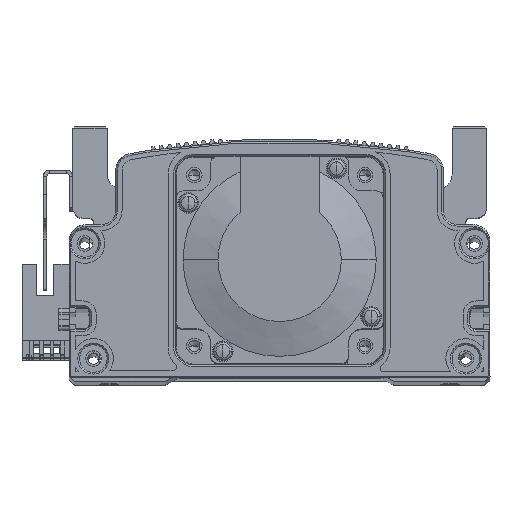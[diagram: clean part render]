
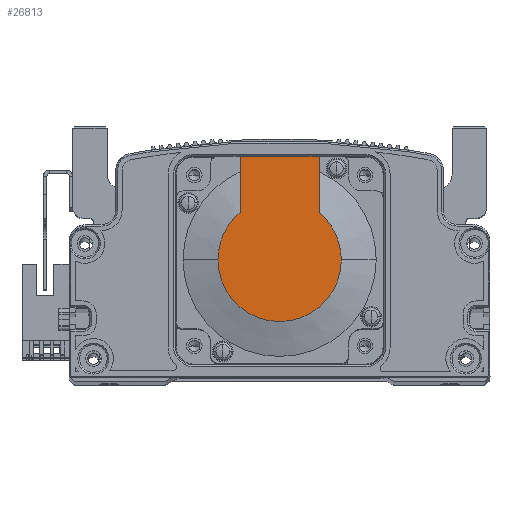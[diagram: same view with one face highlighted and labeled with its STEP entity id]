
A CAD part, top view. The second image highlights one B-rep face of the part: STEP entity #26813.
In plain terms, the highlighted planar face has unit normal (0, 0, 1) as drawn and (-1, 0, 0) by its records, which use the part's own axes.
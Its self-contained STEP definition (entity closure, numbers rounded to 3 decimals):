
#425 = LINE ( 'NONE', #14855, #32040 ) ;
#663 = EDGE_CURVE ( 'NONE', #41209, #62188, #30129, .T. ) ;
#3111 = ORIENTED_EDGE ( 'NONE', *, *, #23207, .T. ) ;
#3572 = CARTESIAN_POINT ( 'NONE',  ( -118.5, 0., 11.45 ) ) ;
#3984 = AXIS2_PLACEMENT_3D ( 'NONE', #42784, #48113, #63203 ) ;
#5056 = PLANE ( 'NONE',  #41517 ) ;
#5775 = DIRECTION ( 'NONE',  ( 0., 0., -1. ) ) ;
#6433 = VERTEX_POINT ( 'NONE', #37620 ) ;
#7097 = EDGE_CURVE ( 'NONE', #63521, #27957, #29076, .T. ) ;
#8506 = AXIS2_PLACEMENT_3D ( 'NONE', #31778, #31557, #5775 ) ;
#9224 = EDGE_CURVE ( 'NONE', #62188, #6433, #20140, .T. ) ;
#14399 = DIRECTION ( 'NONE',  ( 0., -1., 0. ) ) ;
#14786 = CARTESIAN_POINT ( 'NONE',  ( -118.5, 30., -11.45 ) ) ;
#14855 = CARTESIAN_POINT ( 'NONE',  ( -118.5, -8.941, -11.45 ) ) ;
#15718 = CARTESIAN_POINT ( 'NONE',  ( -118.5, -8.941, 0. ) ) ;
#20140 = CIRCLE ( 'NONE', #52971, 17.881 ) ;
#20409 = ORIENTED_EDGE ( 'NONE', *, *, #55371, .T. ) ;
#23207 = EDGE_CURVE ( 'NONE', #6433, #27957, #41660, .T. ) ;
#26813 = ADVANCED_FACE ( 'NONE', ( #39606 ), #5056, .T. ) ;
#27957 = VERTEX_POINT ( 'NONE', #30516 ) ;
#28671 = EDGE_LOOP ( 'NONE', ( #20409, #56949, #59907, #3111, #63372, #31325 ) ) ;
#29076 = LINE ( 'NONE', #3572, #53133 ) ;
#30129 = CIRCLE ( 'NONE', #8506, 17.881 ) ;
#30281 = VERTEX_POINT ( 'NONE', #14786 ) ;
#30516 = CARTESIAN_POINT ( 'NONE',  ( -118.5, 13.735, 11.45 ) ) ;
#31325 = ORIENTED_EDGE ( 'NONE', *, *, #46539, .F. ) ;
#31557 = DIRECTION ( 'NONE',  ( -1., 0., 0. ) ) ;
#31778 = CARTESIAN_POINT ( 'NONE',  ( -118.5, 0., 0. ) ) ;
#32040 = VECTOR ( 'NONE', #14399, 1000. ) ;
#33750 = LINE ( 'NONE', #59808, #41196 ) ;
#34972 = DIRECTION ( 'NONE',  ( 0., -1., 0. ) ) ;
#37113 = DIRECTION ( 'NONE',  ( 0., 0., -1. ) ) ;
#37620 = CARTESIAN_POINT ( 'NONE',  ( -118.5, 0., 17.881 ) ) ;
#39251 = CARTESIAN_POINT ( 'NONE',  ( -118.5, 0., -17.881 ) ) ;
#39606 = FACE_OUTER_BOUND ( 'NONE', #28671, .T. ) ;
#41196 = VECTOR ( 'NONE', #65205, 1000. ) ;
#41209 = VERTEX_POINT ( 'NONE', #66129 ) ;
#41517 = AXIS2_PLACEMENT_3D ( 'NONE', #15718, #47558, #63832 ) ;
#41660 = CIRCLE ( 'NONE', #3984, 17.881 ) ;
#42784 = CARTESIAN_POINT ( 'NONE',  ( -118.5, 0., 0. ) ) ;
#46539 = EDGE_CURVE ( 'NONE', #30281, #63521, #33750, .T. ) ;
#47516 = CARTESIAN_POINT ( 'NONE',  ( -118.5, 0., 0. ) ) ;
#47558 = DIRECTION ( 'NONE',  ( -1., 0., 0. ) ) ;
#48113 = DIRECTION ( 'NONE',  ( -1., 0., 0. ) ) ;
#52873 = DIRECTION ( 'NONE',  ( -1., 0., 0. ) ) ;
#52971 = AXIS2_PLACEMENT_3D ( 'NONE', #47516, #52873, #37113 ) ;
#53133 = VECTOR ( 'NONE', #34972, 1000. ) ;
#55371 = EDGE_CURVE ( 'NONE', #30281, #41209, #425, .T. ) ;
#56949 = ORIENTED_EDGE ( 'NONE', *, *, #663, .T. ) ;
#59808 = CARTESIAN_POINT ( 'NONE',  ( -118.5, 30., 25. ) ) ;
#59907 = ORIENTED_EDGE ( 'NONE', *, *, #9224, .T. ) ;
#62188 = VERTEX_POINT ( 'NONE', #39251 ) ;
#62298 = CARTESIAN_POINT ( 'NONE',  ( -118.5, 30., 11.45 ) ) ;
#63203 = DIRECTION ( 'NONE',  ( 0., 0., -1. ) ) ;
#63372 = ORIENTED_EDGE ( 'NONE', *, *, #7097, .F. ) ;
#63521 = VERTEX_POINT ( 'NONE', #62298 ) ;
#63832 = DIRECTION ( 'NONE',  ( 0., 0., 1. ) ) ;
#65205 = DIRECTION ( 'NONE',  ( 0., 0., 1. ) ) ;
#66129 = CARTESIAN_POINT ( 'NONE',  ( -118.5, 13.735, -11.45 ) ) ;
